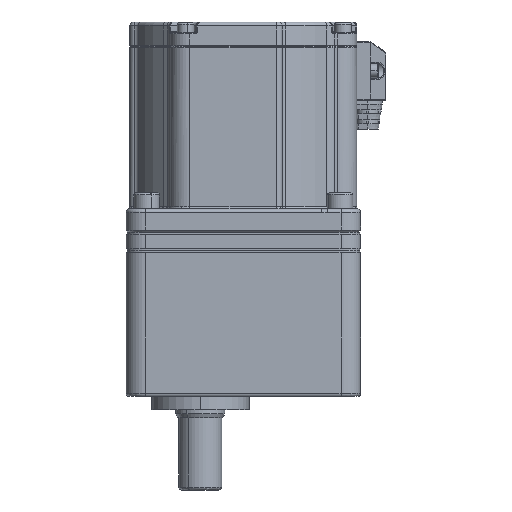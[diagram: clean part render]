
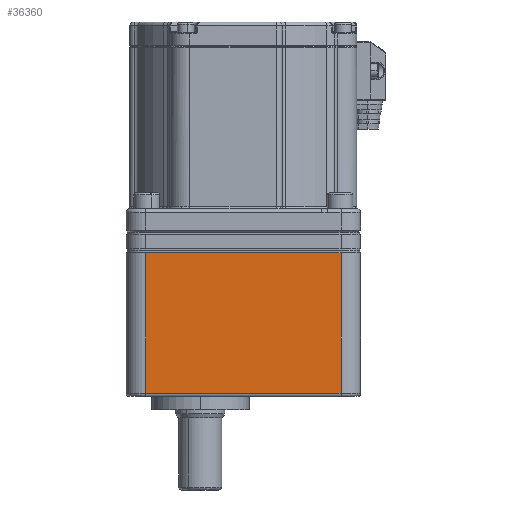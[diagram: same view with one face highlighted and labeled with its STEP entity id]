
A CAD part, left-side view. The second image highlights one B-rep face of the part: STEP entity #36360.
In plain terms, the highlighted planar face has unit normal (-1, 0, 0) as drawn and (1, 0, 0) by its records, which use the part's own axes.
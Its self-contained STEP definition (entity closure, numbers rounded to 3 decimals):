
#1254 = CARTESIAN_POINT ( 'NONE',  ( 60., -50., 1.5 ) ) ;
#4702 = DIRECTION ( 'NONE',  ( 0., 0., 1. ) ) ;
#6552 = CARTESIAN_POINT ( 'NONE',  ( 60., 50., 1.5 ) ) ;
#8186 = LINE ( 'NONE', #27906, #60478 ) ;
#9078 = DIRECTION ( 'NONE',  ( -1., 0., 0. ) ) ;
#10254 = AXIS2_PLACEMENT_3D ( 'NONE', #53371, #9078, #28793 ) ;
#10865 = LINE ( 'NONE', #30603, #23151 ) ;
#13925 = FACE_OUTER_BOUND ( 'NONE', #29536, .T. ) ;
#14757 = ORIENTED_EDGE ( 'NONE', *, *, #35466, .F. ) ;
#14967 = CARTESIAN_POINT ( 'NONE',  ( 60., 50., 73.5 ) ) ;
#17328 = VERTEX_POINT ( 'NONE', #14967 ) ;
#17505 = DIRECTION ( 'NONE',  ( 0., -1., 0. ) ) ;
#23151 = VECTOR ( 'NONE', #50303, 1000. ) ;
#27763 = VECTOR ( 'NONE', #4702, 1000. ) ;
#27906 = CARTESIAN_POINT ( 'NONE',  ( 60., 50., 75.5 ) ) ;
#28793 = DIRECTION ( 'NONE',  ( 0., 0., 1. ) ) ;
#29132 = EDGE_CURVE ( 'NONE', #49545, #17328, #10865, .T. ) ;
#29268 = LINE ( 'NONE', #48964, #27763 ) ;
#29536 = EDGE_LOOP ( 'NONE', ( #54191, #41295, #14757, #53122 ) ) ;
#30603 = CARTESIAN_POINT ( 'NONE',  ( 60., -50., 73.5 ) ) ;
#33674 = PLANE ( 'NONE',  #10254 ) ;
#35466 = EDGE_CURVE ( 'NONE', #48157, #49545, #29268, .T. ) ;
#36360 = ADVANCED_FACE ( 'NONE', ( #13925 ), #33674, .F. ) ;
#38938 = EDGE_CURVE ( 'NONE', #59448, #48157, #42128, .T. ) ;
#41295 = ORIENTED_EDGE ( 'NONE', *, *, #29132, .F. ) ;
#42128 = LINE ( 'NONE', #61794, #50252 ) ;
#42875 = EDGE_CURVE ( 'NONE', #17328, #59448, #8186, .T. ) ;
#47618 = DIRECTION ( 'NONE',  ( 0., 0., -1. ) ) ;
#48157 = VERTEX_POINT ( 'NONE', #1254 ) ;
#48964 = CARTESIAN_POINT ( 'NONE',  ( 60., -50., 75.5 ) ) ;
#49545 = VERTEX_POINT ( 'NONE', #63862 ) ;
#50252 = VECTOR ( 'NONE', #17505, 1000. ) ;
#50303 = DIRECTION ( 'NONE',  ( 0., 1., 0. ) ) ;
#53122 = ORIENTED_EDGE ( 'NONE', *, *, #38938, .F. ) ;
#53371 = CARTESIAN_POINT ( 'NONE',  ( 60., -50., 75.5 ) ) ;
#54191 = ORIENTED_EDGE ( 'NONE', *, *, #42875, .F. ) ;
#59448 = VERTEX_POINT ( 'NONE', #6552 ) ;
#60478 = VECTOR ( 'NONE', #47618, 1000. ) ;
#61794 = CARTESIAN_POINT ( 'NONE',  ( 60., 0., 1.5 ) ) ;
#63862 = CARTESIAN_POINT ( 'NONE',  ( 60., -50., 73.5 ) ) ;
